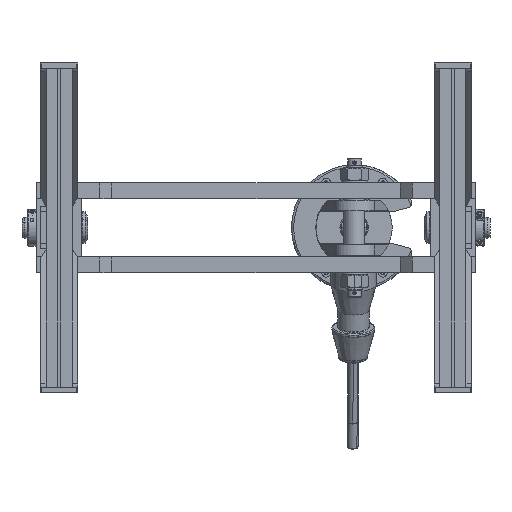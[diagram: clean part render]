
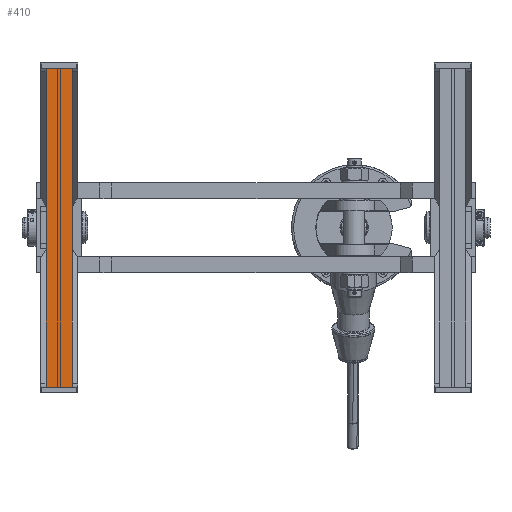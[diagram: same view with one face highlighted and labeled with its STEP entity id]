
A CAD part, front view. The second image highlights one B-rep face of the part: STEP entity #410.
In plain terms, the highlighted planar face has unit normal (0, -1, 0).
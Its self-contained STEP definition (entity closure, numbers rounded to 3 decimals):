
#310 = ORIENTED_EDGE ( 'NONE', *, *, #42648, .F. ) ;
#410 = ADVANCED_FACE ( 'NONE', ( #23624 ), #32566, .T. ) ;
#4539 = CARTESIAN_POINT ( 'NONE',  ( -139.832, -578.116, -303.65 ) ) ;
#7223 = CARTESIAN_POINT ( 'NONE',  ( -164.832, -578.116, -303.65 ) ) ;
#7693 = VECTOR ( 'NONE', #23160, 1000. ) ;
#12030 = DIRECTION ( 'NONE',  ( 1., 0., 0. ) ) ;
#14553 = CARTESIAN_POINT ( 'NONE',  ( -114.832, -578.116, 303.65 ) ) ;
#14814 = ORIENTED_EDGE ( 'NONE', *, *, #20851, .F. ) ;
#17221 = CARTESIAN_POINT ( 'NONE',  ( -164.832, -578.116, 303.65 ) ) ;
#19221 = LINE ( 'NONE', #41025, #7693 ) ;
#20851 = EDGE_CURVE ( 'NONE', #30237, #53520, #23874, .T. ) ;
#23160 = DIRECTION ( 'NONE',  ( 0., 0., -1. ) ) ;
#23535 = VERTEX_POINT ( 'NONE', #43526 ) ;
#23608 = DIRECTION ( 'NONE',  ( 0., 0., 1. ) ) ;
#23624 = FACE_OUTER_BOUND ( 'NONE', #34193, .T. ) ;
#23874 = LINE ( 'NONE', #37008, #24527 ) ;
#24457 = DIRECTION ( 'NONE',  ( 0., -1., 0. ) ) ;
#24527 = VECTOR ( 'NONE', #23608, 1000. ) ;
#25536 = DIRECTION ( 'NONE',  ( 1., 0., 0. ) ) ;
#26377 = ORIENTED_EDGE ( 'NONE', *, *, #41357, .T. ) ;
#29268 = ORIENTED_EDGE ( 'NONE', *, *, #30686, .F. ) ;
#30237 = VERTEX_POINT ( 'NONE', #7223 ) ;
#30686 = EDGE_CURVE ( 'NONE', #50721, #23535, #19221, .T. ) ;
#32566 = PLANE ( 'NONE',  #53567 ) ;
#32839 = CARTESIAN_POINT ( 'NONE',  ( -114.832, -578.116, 0. ) ) ;
#34193 = EDGE_LOOP ( 'NONE', ( #26377, #29268, #310, #14814 ) ) ;
#34565 = VECTOR ( 'NONE', #12030, 1000. ) ;
#37008 = CARTESIAN_POINT ( 'NONE',  ( -164.832, -578.116, 0. ) ) ;
#38029 = VECTOR ( 'NONE', #25536, 1000. ) ;
#38039 = CARTESIAN_POINT ( 'NONE',  ( -139.832, -578.116, 303.65 ) ) ;
#41025 = CARTESIAN_POINT ( 'NONE',  ( -114.832, -578.116, 0. ) ) ;
#41357 = EDGE_CURVE ( 'NONE', #30237, #23535, #43374, .T. ) ;
#42648 = EDGE_CURVE ( 'NONE', #53520, #50721, #43924, .T. ) ;
#43374 = LINE ( 'NONE', #4539, #38029 ) ;
#43526 = CARTESIAN_POINT ( 'NONE',  ( -114.832, -578.116, -303.65 ) ) ;
#43924 = LINE ( 'NONE', #38039, #34565 ) ;
#49330 = DIRECTION ( 'NONE',  ( 0., 0., -1. ) ) ;
#50721 = VERTEX_POINT ( 'NONE', #14553 ) ;
#53520 = VERTEX_POINT ( 'NONE', #17221 ) ;
#53567 = AXIS2_PLACEMENT_3D ( 'NONE', #32839, #24457, #49330 ) ;
